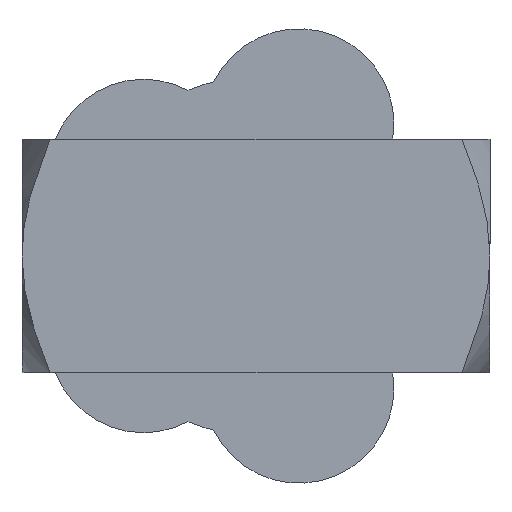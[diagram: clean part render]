
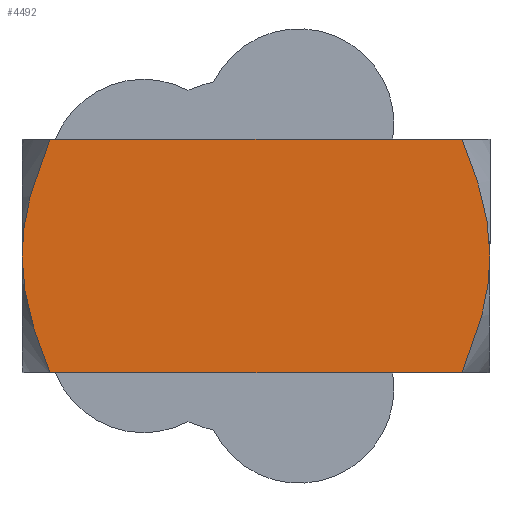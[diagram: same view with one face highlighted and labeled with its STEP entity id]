
A CAD part, front view. The second image highlights one B-rep face of the part: STEP entity #4492.
In plain terms, the highlighted planar face has unit normal (0, -1, 0).
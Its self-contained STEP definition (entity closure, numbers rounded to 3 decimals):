
#29=(
BOUNDED_CURVE()
B_SPLINE_CURVE(2,(#7657,#7658,#7659),.UNSPECIFIED.,.F.,.F.)
B_SPLINE_CURVE_WITH_KNOTS((3,3),(2.141,3.92),
 .UNSPECIFIED.)
CURVE()
GEOMETRIC_REPRESENTATION_ITEM()
RATIONAL_B_SPLINE_CURVE((1.,1.121,1.041))
REPRESENTATION_ITEM('')
);
#34=(
BOUNDED_CURVE()
B_SPLINE_CURVE(2,(#7683,#7684,#7685),.UNSPECIFIED.,.F.,.F.)
B_SPLINE_CURVE_WITH_KNOTS((3,3),(0.363,2.141),
 .UNSPECIFIED.)
CURVE()
GEOMETRIC_REPRESENTATION_ITEM()
RATIONAL_B_SPLINE_CURVE((1.041,1.121,1.))
REPRESENTATION_ITEM('')
);
#36=(
BOUNDED_CURVE()
B_SPLINE_CURVE(2,(#7694,#7695,#7696),.UNSPECIFIED.,.F.,.F.)
B_SPLINE_CURVE_WITH_KNOTS((3,3),(0.363,2.141),
 .UNSPECIFIED.)
CURVE()
GEOMETRIC_REPRESENTATION_ITEM()
RATIONAL_B_SPLINE_CURVE((1.041,1.121,1.))
REPRESENTATION_ITEM('')
);
#37=(
BOUNDED_CURVE()
B_SPLINE_CURVE(2,(#7700,#7701,#7702),.UNSPECIFIED.,.F.,.F.)
B_SPLINE_CURVE_WITH_KNOTS((3,3),(2.141,3.92),
 .UNSPECIFIED.)
CURVE()
GEOMETRIC_REPRESENTATION_ITEM()
RATIONAL_B_SPLINE_CURVE((1.,1.121,1.041))
REPRESENTATION_ITEM('')
);
#540=FACE_OUTER_BOUND('',#800,.T.);
#800=EDGE_LOOP('',(#3841,#3842,#3843,#3844,#3845,#3846));
#1156=LINE('',#7402,#1579);
#1230=LINE('',#7718,#1653);
#1579=VECTOR('',#5432,10.);
#1653=VECTOR('',#5732,10.);
#1967=VERTEX_POINT('',#7397);
#1968=VERTEX_POINT('',#7401);
#2049=VERTEX_POINT('',#7656);
#2053=VERTEX_POINT('',#7678);
#2055=VERTEX_POINT('',#7693);
#2056=VERTEX_POINT('',#7699);
#2525=EDGE_CURVE('',#1967,#1968,#1156,.T.);
#2644=EDGE_CURVE('',#2049,#1968,#29,.T.);
#2653=EDGE_CURVE('',#2053,#2049,#34,.T.);
#2656=EDGE_CURVE('',#1967,#2055,#36,.T.);
#2658=EDGE_CURVE('',#2055,#2056,#37,.T.);
#2664=EDGE_CURVE('',#2056,#2053,#1230,.T.);
#3841=ORIENTED_EDGE('',*,*,#2653,.T.);
#3842=ORIENTED_EDGE('',*,*,#2644,.T.);
#3843=ORIENTED_EDGE('',*,*,#2525,.F.);
#3844=ORIENTED_EDGE('',*,*,#2656,.T.);
#3845=ORIENTED_EDGE('',*,*,#2658,.T.);
#3846=ORIENTED_EDGE('',*,*,#2664,.T.);
#4023=PLANE('',#4779);
#4492=ADVANCED_FACE('',(#540),#4023,.T.);
#4779=AXIS2_PLACEMENT_3D('',#7717,#5730,#5731);
#5432=DIRECTION('',(1.,0.,0.));
#5730=DIRECTION('center_axis',(0.,-1.,0.));
#5731=DIRECTION('ref_axis',(1.,0.,0.));
#5732=DIRECTION('',(1.,0.,0.));
#7397=CARTESIAN_POINT('',(-50.578,-37.023,16.));
#7401=CARTESIAN_POINT('',(5.77,-37.023,16.));
#7402=CARTESIAN_POINT('',(-22.404,-37.023,16.));
#7656=CARTESIAN_POINT('',(9.596,-37.023,0.));
#7657=CARTESIAN_POINT('Ctrl Pts',(9.596,-37.023,0.));
#7658=CARTESIAN_POINT('Ctrl Pts',(9.596,-37.023,6.627));
#7659=CARTESIAN_POINT('Ctrl Pts',(5.77,-37.023,16.));
#7678=CARTESIAN_POINT('',(5.77,-37.023,-16.));
#7683=CARTESIAN_POINT('Ctrl Pts',(5.77,-37.023,-16.));
#7684=CARTESIAN_POINT('Ctrl Pts',(9.596,-37.023,-6.627));
#7685=CARTESIAN_POINT('Ctrl Pts',(9.596,-37.023,0.));
#7693=CARTESIAN_POINT('',(-54.404,-37.023,0.));
#7694=CARTESIAN_POINT('Ctrl Pts',(-50.578,-37.023,16.));
#7695=CARTESIAN_POINT('Ctrl Pts',(-54.404,-37.023,6.627));
#7696=CARTESIAN_POINT('Ctrl Pts',(-54.404,-37.023,0.));
#7699=CARTESIAN_POINT('',(-50.578,-37.023,-16.));
#7700=CARTESIAN_POINT('Ctrl Pts',(-54.404,-37.023,0.));
#7701=CARTESIAN_POINT('Ctrl Pts',(-54.404,-37.023,-6.627));
#7702=CARTESIAN_POINT('Ctrl Pts',(-50.578,-37.023,-16.));
#7717=CARTESIAN_POINT('Origin',(-22.404,-37.023,16.));
#7718=CARTESIAN_POINT('',(-22.404,-37.023,-16.));
